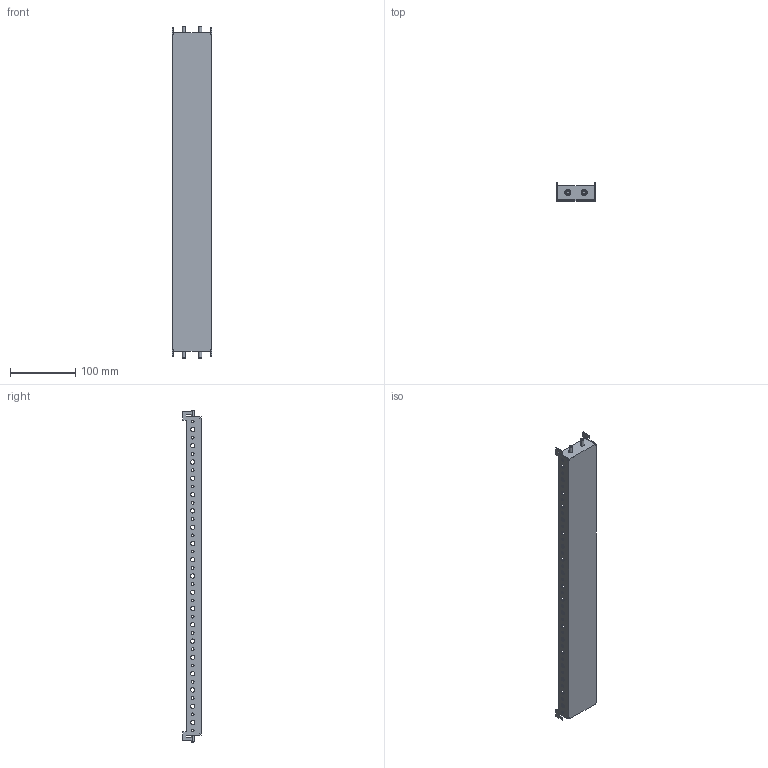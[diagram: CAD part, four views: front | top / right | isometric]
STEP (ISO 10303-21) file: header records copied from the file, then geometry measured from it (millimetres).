
FILE_DESCRIPTION(('Open CASCADE Model'),'2;1');
FILE_NAME('Open CASCADE Shape Model','2025-03-10T09:37:11',('Author'),( 'Open CASCADE'),'Open CASCADE STEP processor 7.8','Open CASCADE 7.8' ,'Unknown');
FILE_SCHEMA(('AUTOMOTIVE_DESIGN { 1 0 10303 214 1 1 1 1 }'));
Length unit declared in the file: millimetre
Products named in the file (3): Compound1; Solid1; Solid2
Assembly tree (5 placements, depth 2):
  Compound1
    Solid1
    Solid2  x4
Bounding box: 60 x 28 x 510 mm (x, y, z)
Volume: 78519.9 mm3; surface area: 108423.2 mm2
Topology: 5 solids, 5 shells, 322 faces, 872 edges, 556 vertices
Faces by surface type: cylinder 180, plane 94, cone 16, torus 16, bspline 8, sphere 8
Entity records: 8942 total; most frequent: CARTESIAN_POINT 1663, DIRECTION 1574, ORIENTED_EDGE 1440, EDGE_CURVE 720, AXIS2_PLACEMENT_3D 610, VERTEX_POINT 475, FACE_BOUND 415, EDGE_LOOP 415
